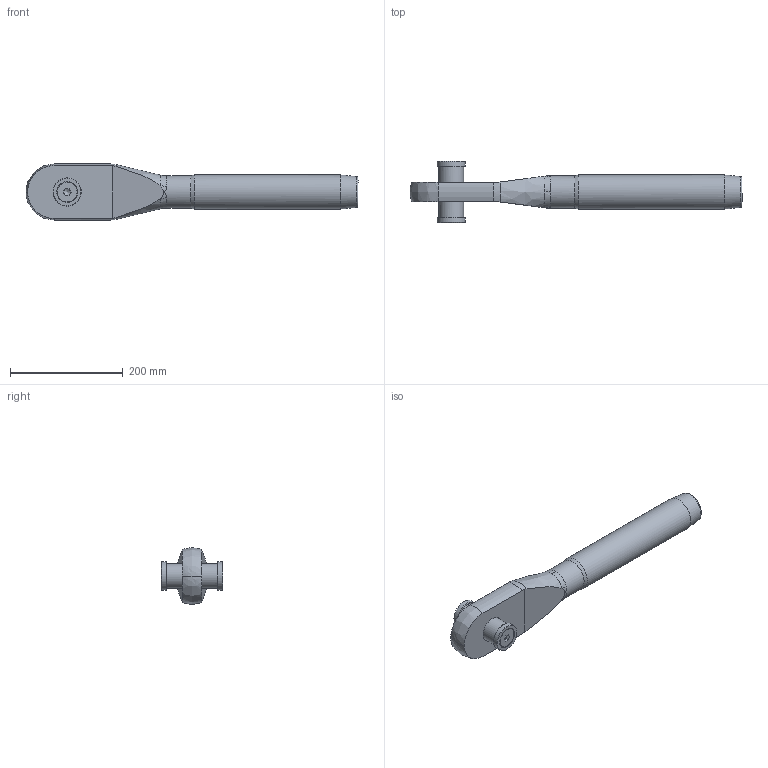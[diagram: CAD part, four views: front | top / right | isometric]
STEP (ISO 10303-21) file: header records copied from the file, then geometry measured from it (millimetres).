
FILE_DESCRIPTION(/* description */ (''),/* implementation_level */ '2;1');
FILE_NAME(/* name */ 'MCC 32_42CrMo4',/* time_stamp */ '2023-05-23T15:41:05+02:00',/* author */ (''),/* organization */ (''),/* preprocessor_version */ 'ST-DEVELOPER v16.5',/* originating_system */ 'Rhino 7.22',/* authorisation */ '');
FILE_SCHEMA (('CONFIG_CONTROL_DESIGN'));
Length unit declared in the file: millimetre
Products named in the file (1): Document
Bounding box: 589 x 108.79 x 100 mm (x, y, z)
Volume: 1846967.9 mm3; surface area: 164371.9 mm2
Topology: 6 solids, 6 shells, 74 faces, 203 edges, 135 vertices
Faces by surface type: bspline 31, plane 27, cylinder 16
Full cylindrical faces by diameter (mm): 17.294 x2, 20 x2, 21 x2, 35.4 x2, 44 x1, 46 x1, 50 x2, 57.2 x1, 60.5 x1
Entity records: 3255 total; most frequent: CARTESIAN_POINT 2000, ORIENTED_EDGE 386, EDGE_CURVE 193, VERTEX_POINT 135, EDGE_LOOP 84, ADVANCED_FACE 74, FACE_OUTER_BOUND 74, B_SPLINE_CURVE_WITH_KNOTS 64
